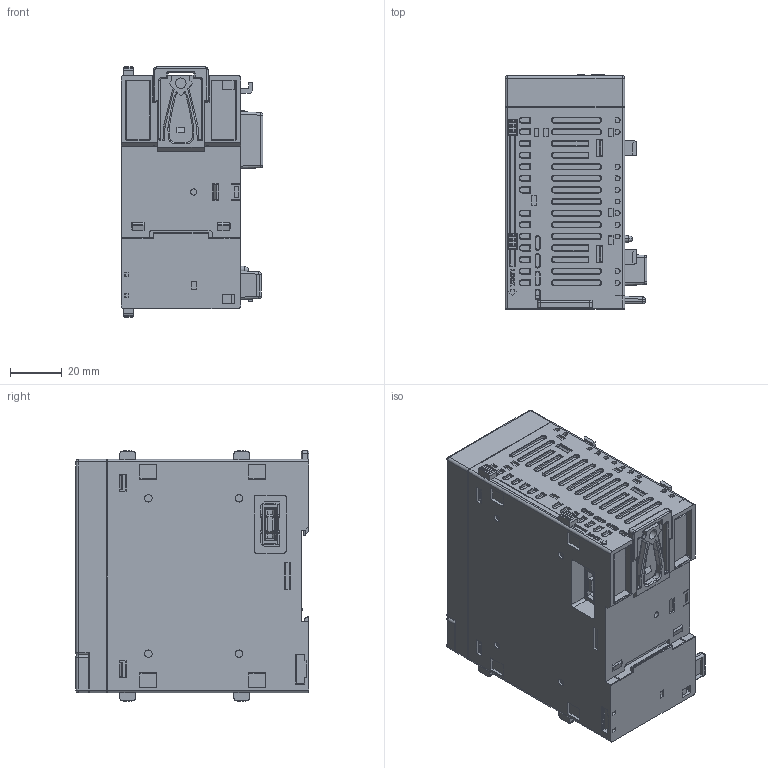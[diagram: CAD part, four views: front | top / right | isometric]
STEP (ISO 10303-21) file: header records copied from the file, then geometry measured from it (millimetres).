
FILE_DESCRIPTION((''),'2;1');
FILE_NAME('MPLC-REPEATER-DOWN-COVER','2023-12-10T22:09:18',('Jacky Chang'),(''),'CREO PARAMETRIC BY PTC INC, 2021284','CREO PARAMETRIC BY PTC INC, 2021284','');
FILE_SCHEMA(('CONFIG_CONTROL_DESIGN','SHAPE_APPEARANCE_LAYERS_GROUPS'));
Products named in the file (1): MPLC-REPEATER-DOWN-COVER
Bounding box: 54.8 x 90.3 x 96.6 mm (x, y, z)
Volume: 363383.1 mm3; surface area: 44093.8 mm2
Topology: 1 solids, 5 shells, 2520 faces, 6346 edges, 3988 vertices
Faces by surface type: plane 1484, cylinder 597, torus 176, cone 121, extrusion 86, sphere 40, bspline 16
Entity records: 102944 total; most frequent: CARTESIAN_POINT 16096, ORIENTED_EDGE 12668, DIRECTION 12107, PRESENTATION_STYLE_ASSIGNMENT 7382, STYLED_ITEM 6335, CURVE_STYLE 6334, EDGE_CURVE 6334, VECTOR 4627
